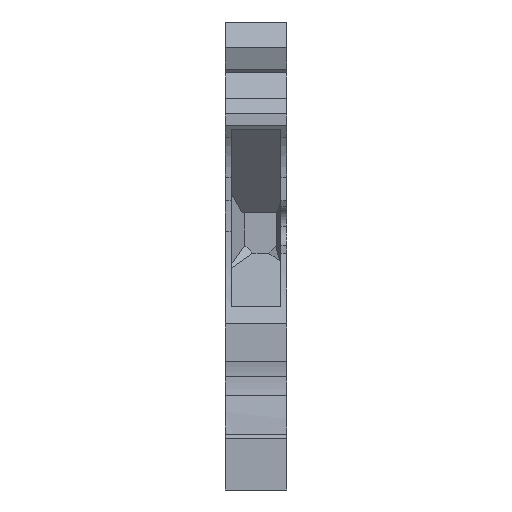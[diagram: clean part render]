
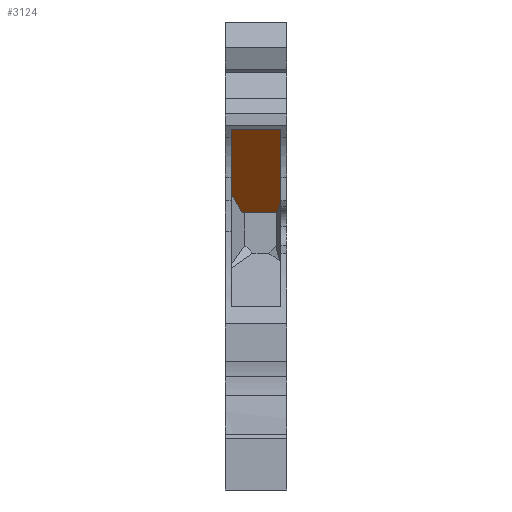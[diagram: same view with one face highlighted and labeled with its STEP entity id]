
A CAD part, front view. The second image highlights one B-rep face of the part: STEP entity #3124.
In plain terms, the highlighted planar face has unit normal (0, -0.715, -0.699).
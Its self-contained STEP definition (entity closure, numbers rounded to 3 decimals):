
#2556=CARTESIAN_POINT('',(0.6,2.428,36.125));
#2557=VERTEX_POINT('',#2556);
#2564=CARTESIAN_POINT('',(5.55,2.428,36.125));
#2565=VERTEX_POINT('',#2564);
#2566=CARTESIAN_POINT('',(0.6,2.428,36.125));
#2567=DIRECTION('',(1.,-0.,-0.));
#2568=VECTOR('',#2567,4.95);
#2569=LINE('',#2566,#2568);
#2570=EDGE_CURVE('',#2557,#2565,#2569,.T.);
#2865=CARTESIAN_POINT('',(0.6,8.737,29.669));
#2866=VERTEX_POINT('',#2865);
#2875=CARTESIAN_POINT('',(0.6,8.737,29.669));
#2876=DIRECTION('',(-0.,-0.699,0.715));
#2877=VECTOR('',#2876,9.027);
#2878=LINE('',#2875,#2877);
#2879=EDGE_CURVE('',#2866,#2557,#2878,.T.);
#3053=CARTESIAN_POINT('',(5.176,10.605,27.757));
#3054=VERTEX_POINT('',#3053);
#3063=CARTESIAN_POINT('',(1.678,10.605,27.757));
#3064=VERTEX_POINT('',#3063);
#3065=CARTESIAN_POINT('',(1.678,10.605,27.757));
#3066=DIRECTION('',(1.,-0.,-0.));
#3067=VECTOR('',#3066,3.498);
#3068=LINE('',#3065,#3067);
#3069=EDGE_CURVE('',#3064,#3054,#3068,.T.);
#3096=CARTESIAN_POINT('',(6.765,10.275,28.095));
#3097=DIRECTION('',(0.,0.715,0.699));
#3098=DIRECTION('',(-1.,0.,-0.));
#3099=AXIS2_PLACEMENT_3D('',#3096,#3097,#3098);
#3100=PLANE('',#3099);
#3101=CARTESIAN_POINT('',(5.55,9.596,28.789));
#3102=VERTEX_POINT('',#3101);
#3103=CARTESIAN_POINT('',(5.176,10.605,27.757));
#3104=CARTESIAN_POINT('',(5.55,9.596,28.789));
#3105=B_SPLINE_CURVE_WITH_KNOTS('',1,(#3103,#3104),.UNSPECIFIED.,.F.,.F.,(2,2),(0.,1.491),.UNSPECIFIED.);
#3106=EDGE_CURVE('',#3054,#3102,#3105,.T.);
#3107=ORIENTED_EDGE('',*,*,#3106,.T.);
#3108=CARTESIAN_POINT('',(5.55,2.428,36.125));
#3109=DIRECTION('',(0.,0.699,-0.715));
#3110=VECTOR('',#3109,10.256);
#3111=LINE('',#3108,#3110);
#3112=EDGE_CURVE('',#2565,#3102,#3111,.T.);
#3113=ORIENTED_EDGE('',*,*,#3112,.F.);
#3114=ORIENTED_EDGE('',*,*,#2570,.F.);
#3115=ORIENTED_EDGE('',*,*,#2879,.F.);
#3116=CARTESIAN_POINT('',(1.678,10.605,27.757));
#3117=CARTESIAN_POINT('',(0.6,8.737,29.669));
#3118=B_SPLINE_CURVE_WITH_KNOTS('',1,(#3116,#3117),.UNSPECIFIED.,.F.,.F.,(2,2),(0.,2.882),.UNSPECIFIED.);
#3119=EDGE_CURVE('',#3064,#2866,#3118,.T.);
#3120=ORIENTED_EDGE('',*,*,#3119,.F.);
#3121=ORIENTED_EDGE('',*,*,#3069,.T.);
#3122=EDGE_LOOP('',(#3107,#3113,#3114,#3115,#3120,#3121));
#3123=FACE_BOUND('',#3122,.T.);
#3124=ADVANCED_FACE('',(#3123),#3100,.F.);
